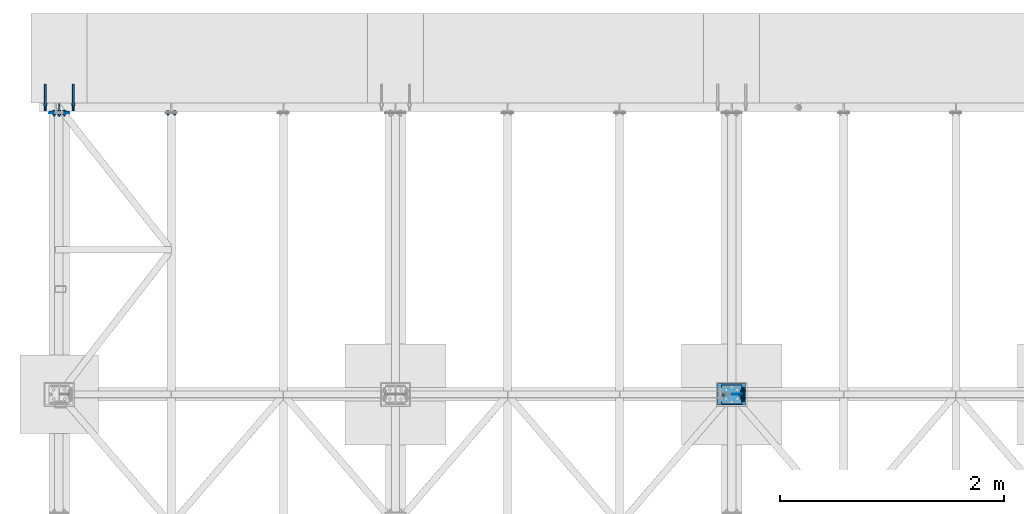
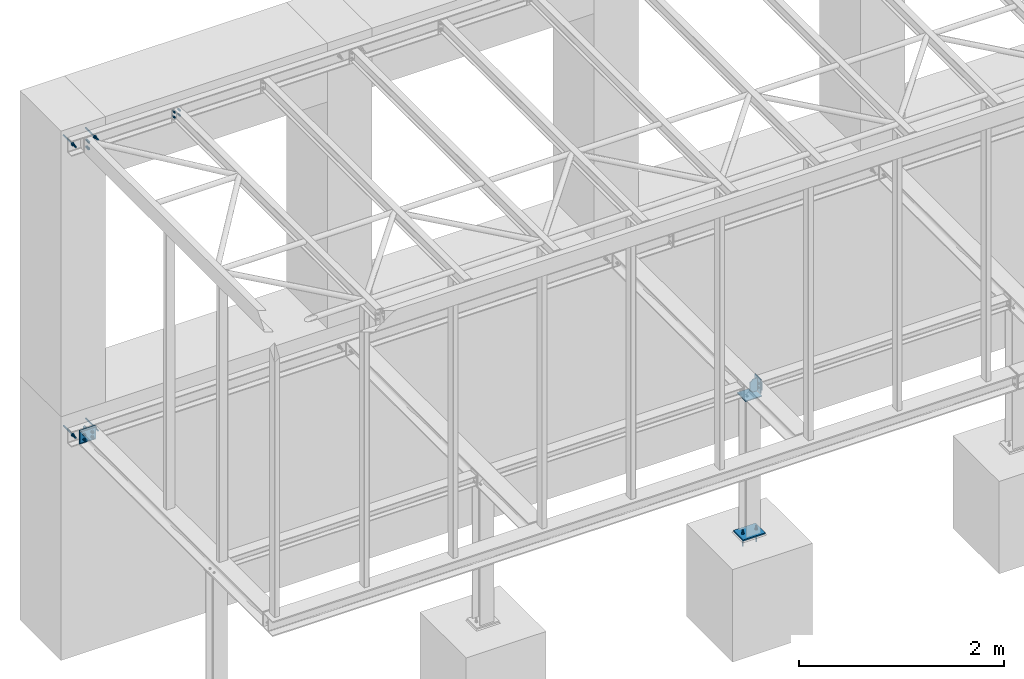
# One storey, part 14 of 23: 8 discrete accessories, 7 mechanical fasteners, 7 elements without a shape of their own.
"""IFC2X3 building model written with IfcOpenShell, lengths in millimetres."""

from ifc_helpers import new_model, si_unit, frame, frame_2d, origin_with_axes, origin_2d_with_axis, place, context, subcontext, project, spatial, polyline, circle_curve, parameter, trimmed, segment, composite_curve, circle, outline, extrude, source, transform, mapped, material, type_object, element, aggregate, save


model = new_model("IFC2X3")

# Units and contexts
model_context = context("Model", 3, precision=1e-05, world=origin_with_axes())
body_context = subcontext(model_context, "Body", "Model", "MODEL_VIEW")
ifc_project = project(units=[si_unit("LENGTHUNIT", "METRE", prefix="MILLI"), si_unit("AREAUNIT", "SQUARE_METRE"), si_unit("VOLUMEUNIT", "CUBIC_METRE"), si_unit("MASSUNIT", "GRAM", prefix="KILO"), si_unit("TIMEUNIT", "SECOND"), si_unit("PLANEANGLEUNIT", "RADIAN"), si_unit("SOLIDANGLEUNIT", "STERADIAN"), si_unit("THERMODYNAMICTEMPERATUREUNIT", "DEGREE_CELSIUS"), si_unit("LUMINOUSINTENSITYUNIT", "LUMEN")], contexts=[model_context])

# Site, building, storey
site_placement = place(None, origin_with_axes())
site = spatial("IfcSite", under=ifc_project, at=site_placement, Name="Undefined", CompositionType="ELEMENT")
building_placement = place(site_placement, origin_with_axes())
building = spatial("IfcBuilding", under=site, at=building_placement, Name="Undefined", CompositionType="ELEMENT")
storey_placement = place(building_placement, origin_with_axes())
storey = spatial("IfcBuildingStorey", under=building, at=storey_placement, Name="Undefined", CompositionType="ELEMENT", Elevation=0.0)

# Assembly, mechanical fastener
assembly_1_placement = place(storey_placement, origin_with_axes())
assembly_1 = element("IfcElementAssembly", 1, at=assembly_1_placement, inside=storey, Name="CONCRETE_SLAB", AssemblyPlace="NOTDEFINED", PredefinedType="REINFORCEMENT_UNIT")
ifc_material_1 = material(Name="Undefined")
mechanical_fastener_type = type_object("IfcMechanicalFastenerType", Name="Bolt assembly")
shared_shape_1 = source(origin_with_axes(), body_context, "Body", "SweptSolid", [
    extrude(circle(Radius=9.0, at=origin_2d_with_axis()), frame((0.0, -10.1, 0.0), z_axis=(0.0, 1.0, 0.0), x_axis=(1.0, 0.0, 0.0)), (0.0, 0.0, 1.0), 10.1),
    extrude(circle(Radius=9.0, at=origin_2d_with_axis()), frame((0.0, -19.9, 0.0), z_axis=(0.0, 1.0, 0.0), x_axis=(1.0, 0.0, 0.0)), (0.0, 0.0, 1.0), 10.0),
    extrude(outline(polyline([(13.85640646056, 0.0), (6.92820323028, 12.0000000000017), (-6.92820323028, 12.0000000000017), (-13.85640646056, 0.0), (-6.92820323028, -12.0000000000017), (6.92820323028, -12.0000000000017), (13.85640646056, 0.0)])), frame((0.0, -33.0, 0.0), z_axis=(0.0, 1.0, 0.0), x_axis=(1.0, 0.0, 0.0)), (0.0, 0.0, 1.0), 10.0),
    extrude(circle(Radius=8.0, at=origin_2d_with_axis()), frame((0.0, -23.0, 0.0), z_axis=(0.0, 1.0, 0.0), x_axis=(1.0, 0.0, 0.0)), (0.0, 0.0, 1.0), 50.0),
    extrude(circle(Radius=15.0, at=origin_2d_with_axis()), frame((0.0, -23.0, 0.0), z_axis=(0.0, 1.0, 0.0), x_axis=(1.0, 0.0, 0.0)), (0.0, 0.0, 1.0), 3.0),
    extrude(circle(Radius=15.0, at=origin_2d_with_axis()), frame((0.0, 0.0, 0.0), z_axis=(0.0, 1.0, 0.0), x_axis=(1.0, 0.0, 0.0)), (0.0, 0.0, 1.0), 3.0),
    extrude(outline(polyline([(15.4441197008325, 0.0), (7.72205985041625, 13.3750000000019), (-7.72205985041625, 13.3750000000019), (-15.4441197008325, 0.0), (-7.72205985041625, -13.3750000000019), (7.72205985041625, -13.3750000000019), (15.4441197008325, 0.0)])), frame((0.0, 3.0, 0.0), z_axis=(0.0, 1.0, 0.0), x_axis=(1.0, 0.0, 0.0)), (0.0, 0.0, 1.0), 13.0),
])
mechanical_fastener_1_placement = place(assembly_1_placement, frame((50.0, 3765.0, 3210.0), z_axis=(0.0, 0.0, 1.0), x_axis=(-1.0, 0.0, 0.0)))
mechanical_fastener_1 = element("IfcMechanicalFastener", 2, at=mechanical_fastener_1_placement, type_object=mechanical_fastener_type, material=ifc_material_1, Name="Bolt assembly", NominalDiameter=16.0, NominalLength=50.0, context=body_context, shape_type="MappedRepresentation", body=[
    mapped(shared_shape_1, transform((0.0, 0.0, -40.0))),
    mapped(shared_shape_1, transform((0.0, 0.0, 40.0))),
])
aggregate(assembly_1, [mechanical_fastener_1])

# Assembly, discrete accessory
assembly_2_placement = place(storey_placement, origin_with_axes())
assembly_2 = element("IfcElementAssembly", 3, at=assembly_2_placement, inside=storey, Name="Steel Assembly", AssemblyPlace="NOTDEFINED", PredefinedType="RIGID_FRAME")
ifc_material_2 = material(Name="STEEL/S235JR")
discrete_accessory_type_1 = type_object("IfcDiscreteAccessoryType", Name="PLECH")
discrete_accessory_1_placement = place(assembly_2_placement, frame((6140.0, 1346.0, -345.0), z_axis=(0.0, 0.0, 1.0), x_axis=(-1.0, 0.0, 0.0)))
discrete_accessory_1 = element("IfcDiscreteAccessory", 4, at=discrete_accessory_1_placement, type_object=discrete_accessory_type_1, material=ifc_material_2, Name="PLECH", ObjectType="PL10*172", context=body_context, shape_type="SweptSolid", body=[
    extrude(outline(polyline([(0.0, 0.0), (180.0, 0.0), (180.0, 172.0), (0.0, 172.0), (0.0, 0.0)])), frame((0.0, 0.0, -5.0), z_axis=(0.0, 0.0, 1.0), x_axis=(1.0, 0.0, 0.0)), (0.0, 0.0, 1.0), 10.0),
])

assembly_3_placement = place(storey_placement, origin_with_axes())
assembly_3 = element("IfcElementAssembly", 5, at=assembly_3_placement, inside=storey, Name="Steel Assembly", AssemblyPlace="NOTDEFINED", PredefinedType="RIGID_FRAME")
discrete_accessory_2_placement = place(assembly_3_placement, frame((6155.0, 1200.0, -299.0), z_axis=(-1.0, 0.0, 0.0), x_axis=(0.0, 0.0, 1.0)))
discrete_accessory_2 = element("IfcDiscreteAccessory", 6, at=discrete_accessory_2_placement, type_object=discrete_accessory_type_1, material=ifc_material_2, Name="PLECH", ObjectType="PL10*98", context=body_context, shape_type="SweptSolid", body=[
    extrude(outline(polyline([(0.0, 0.0), (98.0, 4.54747350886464e-13), (98.0, 120.0), (0.0, 120.0), (0.0, 0.0)])), frame((0.0, 0.0, -5.0), z_axis=(0.0, 0.0, 1.0), x_axis=(1.0, 0.0, 0.0)), (0.0, 0.0, 1.0), 10.0),
])
aggregate(assembly_3, [discrete_accessory_2])

# Assembly, discrete accessories
assembly_4_placement = place(storey_placement, origin_with_axes())
assembly_4 = element("IfcElementAssembly", 7, at=assembly_4_placement, inside=storey, Name="Steel Assembly", AssemblyPlace="NOTDEFINED", PredefinedType="RIGID_FRAME")
discrete_accessory_3_placement = place(assembly_4_placement, frame((6140.0, 1260.0, -174.0), z_axis=(0.0, -1.0, 0.0), x_axis=(-1.0, 0.0, 0.0)))
discrete_accessory_3 = element("IfcDiscreteAccessory", 8, at=discrete_accessory_3_placement, type_object=discrete_accessory_type_1, material=ifc_material_2, Name="PLECH", ObjectType="PL8*86", context=body_context, shape_type="SweptSolid", body=[
    extrude(outline(composite_curve([segment(polyline([(0.0, 0.0), (60.5, 0.0)]), True, "CONTINUOUS"), segment(trimmed(circle_curve(frame_2d((85.5, 0.0), x_axis=(-1.0, 0.0)), 25.0), [parameter(0.0)], [parameter(4.71238898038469)], False, "PARAMETER"), True, "CONTINUOUS"), segment(polyline([(85.5, 25.0), (85.5, 127.0)]), True, "CONTINUOUS"), segment(trimmed(circle_curve(frame_2d((85.5, 152.0), x_axis=(0.0, -1.0)), 25.0), [parameter(0.0)], [parameter(4.71238898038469)], False, "PARAMETER"), True, "CONTINUOUS"), segment(polyline([(60.5, 152.0), (0.0, 152.0), (0.0, 0.0)]), True, "DISCONTINUOUS")], self_intersect=False)), frame((0.0, 0.0, -4.0), z_axis=(0.0, 0.0, 1.0), x_axis=(1.0, 0.0, 0.0)), (0.0, 0.0, 1.0), 8.0),
])
discrete_accessory_4_placement = place(assembly_4_placement, frame((6145.0, 1200.0, -332.0), z_axis=(-1.0, 0.0, 0.0), x_axis=(0.0, 0.0, 1.0)))
discrete_accessory_4 = element("IfcDiscreteAccessory", 9, at=discrete_accessory_4_placement, type_object=discrete_accessory_type_1, material=ifc_material_2, Name="PLECH", ObjectType="PL10*120", context=body_context, shape_type="SweptSolid", body=[
    extrude(outline(polyline([(0.0, 0.0), (164.0, 4.54747350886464e-13), (164.0, 120.0), (0.0, 120.0), (0.0, 0.0)])), frame((0.0, 0.0, -5.0), z_axis=(0.0, 0.0, 1.0), x_axis=(1.0, 0.0, 0.0)), (0.0, 0.0, 1.0), 10.0),
])

# Discrete accessory
discrete_accessory_5_placement = place(assembly_2_placement, frame((6175.0, 1356.0, -1982.5), z_axis=(0.0, 0.0, 1.0), x_axis=(-1.0, 0.0, 0.0)))
discrete_accessory_5 = element("IfcDiscreteAccessory", 10, at=discrete_accessory_5_placement, type_object=discrete_accessory_type_1, material=ifc_material_2, Name="PLECH", ObjectType="PL15*192", context=body_context, shape_type="SweptSolid", body=[
    extrude(outline(polyline([(0.0, 0.0), (250.0, 0.0), (250.0, 192.0), (0.0, 192.0), (0.0, 0.0)])), frame((0.0, 0.0, -7.5), z_axis=(0.0, 0.0, 1.0), x_axis=(1.0, 0.0, 0.0)), (0.0, 0.0, 1.0), 15.0),
])

# Assembly, discrete accessories
assembly_5_placement = place(storey_placement, origin_with_axes())
assembly_5 = element("IfcElementAssembly", 11, at=assembly_5_placement, inside=storey, Name="Steel Assembly", AssemblyPlace="NOTDEFINED", PredefinedType="RIGID_FRAME")
discrete_accessory_6_placement = place(assembly_5_placement, frame((-40.0, 3780.0, -168.0), z_axis=(0.0, 1.0, 0.0), x_axis=(1.0, 0.0, 0.0)))
discrete_accessory_6 = element("IfcDiscreteAccessory", 12, at=discrete_accessory_6_placement, type_object=discrete_accessory_type_1, material=ifc_material_2, Name="PLECH", ObjectType="PL10*164", context=body_context, shape_type="SweptSolid", body=[
    extrude(outline(polyline([(0.0, 0.0), (180.0, 0.0), (180.0, 164.0), (0.0, 164.0), (0.0, 0.0)])), frame((0.0, 0.0, -5.0), z_axis=(0.0, 0.0, 1.0), x_axis=(1.0, 0.0, 0.0)), (0.0, 0.0, 1.0), 10.0),
])
discrete_accessory_7_placement = place(assembly_5_placement, frame((50.0, 3785.0, -170.5), z_axis=(-1.0, 0.0, 0.0), x_axis=(0.0, 1.0, 0.0)))
discrete_accessory_7 = element("IfcDiscreteAccessory", 13, at=discrete_accessory_7_placement, type_object=discrete_accessory_type_1, material=ifc_material_2, Name="PLECH", ObjectType="PL8*70", context=body_context, shape_type="SweptSolid", body=[
    extrude(outline(composite_curve([segment(polyline([(0.0, 0.0), (49.5, 0.0)]), True, "CONTINUOUS"), segment(trimmed(circle_curve(frame_2d((69.5, 0.0), x_axis=(-1.0, 0.0)), 20.0), [parameter(0.0)], [parameter(4.71238898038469)], False, "PARAMETER"), True, "CONTINUOUS"), segment(polyline([(69.5, 20.0), (69.5, 139.0)]), True, "CONTINUOUS"), segment(trimmed(circle_curve(frame_2d((69.5, 159.0), x_axis=(0.0, -1.0)), 20.0), [parameter(0.0)], [parameter(4.71238898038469)], False, "PARAMETER"), True, "CONTINUOUS"), segment(polyline([(49.5, 159.0), (0.0, 159.0), (0.0, 0.0)]), True, "DISCONTINUOUS")], self_intersect=False)), frame((0.0, 0.0, -4.0), z_axis=(0.0, 0.0, 1.0), x_axis=(1.0, 0.0, 0.0)), (0.0, 0.0, 1.0), 8.0),
])

# Assembly, discrete accessory
assembly_6_placement = place(storey_placement, origin_with_axes())
assembly_6 = element("IfcElementAssembly", 14, at=assembly_6_placement, inside=storey, Name="Steel Assembly", AssemblyPlace="NOTDEFINED", PredefinedType="RIGID_FRAME")
discrete_accessory_8_placement = place(assembly_6_placement, frame((-40.0, 3771.0, -184.0), z_axis=(0.0, 1.0, 0.0), x_axis=(1.0, 0.0, 0.0)))
discrete_accessory_8 = element("IfcDiscreteAccessory", 15, at=discrete_accessory_8_placement, type_object=discrete_accessory_type_1, material=ifc_material_2, Name="PLECH", ObjectType="PL8*132", context=body_context, shape_type="SweptSolid", body=[
    extrude(outline(polyline([(0.0, 0.0), (180.0, 0.0), (180.0, 132.0), (0.0, 132.0), (0.0, 0.0)])), frame((0.0, 0.0, -4.0), z_axis=(0.0, 0.0, 1.0), x_axis=(1.0, 0.0, 0.0)), (0.0, 0.0, 1.0), 8.0),
])
aggregate(assembly_6, [discrete_accessory_8])

# Mechanical fastener
discrete_accessory_type_2 = type_object("IfcDiscreteAccessoryType", Name="Bolt assembly")
shared_shape_2 = source(origin_with_axes(), body_context, "Body", "SweptSolid", [
    extrude(circle(Radius=9.0, at=origin_2d_with_axis()), frame((0.0, -15.0, 0.0), z_axis=(0.0, 1.0, 0.0), x_axis=(1.0, 0.0, 0.0)), (0.0, 0.0, 1.0), 15.1),
    extrude(outline(polyline([(7.73649338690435, 0.0), (3.86824669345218, 6.69999980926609), (-3.86824669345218, 6.69999980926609), (-7.73649338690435, 0.0), (-3.86824669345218, -6.69999980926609), (3.86824669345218, -6.69999980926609), (7.73649338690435, 0.0)])), frame((0.0, -147.0, 0.0), z_axis=(0.0, 1.0, 0.0), x_axis=(1.0, 0.0, 0.0)), (0.0, 0.0, 1.0), 132.0),
    extrude(circle(Radius=8.0, at=origin_2d_with_axis()), frame((0.0, -15.0, 0.0), z_axis=(0.0, 1.0, 0.0), x_axis=(1.0, 0.0, 0.0)), (0.0, 0.0, 1.0), 58.0),
    extrude(circle(Radius=15.0, at=origin_2d_with_axis()), frame((0.0, 0.0, 0.0), z_axis=(0.0, 1.0, 0.0), x_axis=(1.0, 0.0, 0.0)), (0.0, 0.0, 1.0), 3.0),
    extrude(outline(polyline([(15.4441197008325, 0.0), (7.72205985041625, 13.3750000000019), (-7.72205985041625, 13.3750000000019), (-15.4441197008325, 0.0), (-7.72205985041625, -13.3750000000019), (7.72205985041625, -13.3750000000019), (15.4441197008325, 0.0)])), frame((0.0, 3.0, 0.0), z_axis=(0.0, 1.0, 0.0), x_axis=(1.0, 0.0, 0.0)), (0.0, 0.0, 1.0), 13.0),
])
mechanical_fastener_2_placement = place(assembly_2_placement, frame((5975.0, 1260.0, -1975.0), z_axis=(0.0, -1.0, 0.0), x_axis=(1.0, 0.0, 0.0)))
mechanical_fastener_2 = element("IfcMechanicalFastener", 16, at=mechanical_fastener_2_placement, type_object=discrete_accessory_type_2, material=ifc_material_1, Name="Bolt assembly", NominalDiameter=16.0, NominalLength=58.0, context=body_context, shape_type="MappedRepresentation", body=[
    mapped(shared_shape_2, transform((0.0, 0.0, 0.0))),
    mapped(shared_shape_2, transform((150.0, 0.0, 0.0))),
])

aggregate(assembly_2, [discrete_accessory_1, mechanical_fastener_2, discrete_accessory_5])

# Assembly, mechanical fastener
assembly_7_placement = place(storey_placement, origin_with_axes())
assembly_7 = element("IfcElementAssembly", 17, at=assembly_7_placement, inside=storey, Name="Steel Assembly", AssemblyPlace="NOTDEFINED", PredefinedType="RIGID_FRAME")
shared_shape_3 = source(origin_with_axes(), body_context, "Body", "SweptSolid", [
    extrude(circle(Radius=11.0, at=origin_2d_with_axis()), frame((0.0, -5.5, 0.0), z_axis=(0.0, 1.0, 0.0), x_axis=(1.0, 0.0, 0.0)), (0.0, 0.0, 1.0), 5.6),
    extrude(outline(polyline([(9.81495457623, 0.0), (4.907477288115, 8.5000000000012), (-4.907477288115, 8.5000000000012), (-9.81495457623, 0.0), (-4.907477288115, -8.5000000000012), (4.907477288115, -8.5000000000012), (9.81495457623, 0.0)])), frame((0.0, -173.5, 0.0), z_axis=(0.0, 1.0, 0.0), x_axis=(1.0, 0.0, 0.0)), (0.0, 0.0, 1.0), 168.0),
    extrude(circle(Radius=10.0, at=origin_2d_with_axis()), frame((0.0, -5.5, 0.0), z_axis=(0.0, 1.0, 0.0), x_axis=(1.0, 0.0, 0.0)), (0.0, 0.0, 1.0), 72.0),
    extrude(circle(Radius=18.5, at=origin_2d_with_axis()), frame((0.0, 0.0, 0.0), z_axis=(0.0, 1.0, 0.0), x_axis=(1.0, 0.0, 0.0)), (0.0, 0.0, 1.0), 3.0),
    extrude(outline(polyline([(17.3205080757, 0.0), (8.66025403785, 15.0000000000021), (-8.66025403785, 15.0000000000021), (-17.3205080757, 0.0), (-8.66025403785, -15.0000000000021), (8.66025403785, -15.0000000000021), (17.3205080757, 0.0)])), frame((0.0, 3.0, 0.0), z_axis=(0.0, 1.0, 0.0), x_axis=(1.0, 0.0, 0.0)), (0.0, 0.0, 1.0), 16.0),
])
mechanical_fastener_3_placement = place(assembly_7_placement, frame((-75.0, 3854.5, 3210.0), z_axis=(0.0, 0.0, -1.0), x_axis=(1.0, 0.0, 0.0)))
mechanical_fastener_3 = element("IfcMechanicalFastener", 18, at=mechanical_fastener_3_placement, type_object=discrete_accessory_type_2, material=ifc_material_1, Name="Bolt assembly", NominalDiameter=20.0, NominalLength=72.0, context=body_context, shape_type="MappedRepresentation", body=[
    mapped(shared_shape_3, transform((0.0, 0.0, 0.0))),
    mapped(shared_shape_3, transform((250.0, 0.0, 0.0))),
])

# Mechanical fastener
mechanical_fastener_4_placement = place(assembly_5_placement, frame((-75.0, 3854.5, -250.0), z_axis=(0.0, 0.0, -1.0), x_axis=(1.0, 0.0, 0.0)))
mechanical_fastener_4 = element("IfcMechanicalFastener", 19, at=mechanical_fastener_4_placement, type_object=discrete_accessory_type_2, material=ifc_material_1, Name="Bolt assembly", NominalDiameter=20.0, NominalLength=72.0, context=body_context, shape_type="MappedRepresentation", body=[
    mapped(shared_shape_3, transform((0.0, 0.0, 0.0))),
    mapped(shared_shape_3, transform((250.0, 0.0, 0.0))),
])

shared_shape_4 = source(origin_with_axes(), body_context, "Body", "SweptSolid", [
    extrude(circle(Radius=6.5, at=origin_2d_with_axis()), frame((0.0, -4.1, 0.0), z_axis=(0.0, 1.0, 0.0), x_axis=(1.0, 0.0, 0.0)), (0.0, 0.0, 1.0), 10.1),
    extrude(circle(Radius=6.5, at=origin_2d_with_axis()), frame((0.0, -13.9, 0.0), z_axis=(0.0, 1.0, 0.0), x_axis=(1.0, 0.0, 0.0)), (0.0, 0.0, 1.0), 10.0),
    extrude(outline(polyline([(10.39230484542, 0.0), (5.19615242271, 9.00000000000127), (-5.19615242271, 9.00000000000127), (-10.39230484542, 0.0), (-5.19615242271, -9.00000000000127), (5.19615242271, -9.00000000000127), (10.39230484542, 0.0)])), frame((0.0, -24.0, 0.0), z_axis=(0.0, 1.0, 0.0), x_axis=(1.0, 0.0, 0.0)), (0.0, 0.0, 1.0), 7.5),
    extrude(circle(Radius=6.0, at=origin_2d_with_axis()), frame((0.0, -16.5, 0.0), z_axis=(0.0, 1.0, 0.0), x_axis=(1.0, 0.0, 0.0)), (0.0, 0.0, 1.0), 40.0),
    extrude(circle(Radius=12.0, at=origin_2d_with_axis()), frame((0.0, -16.5, 0.0), z_axis=(0.0, 1.0, 0.0), x_axis=(1.0, 0.0, 0.0)), (0.0, 0.0, 1.0), 2.5),
    extrude(circle(Radius=12.0, at=origin_2d_with_axis()), frame((0.0, 6.0, 0.0), z_axis=(0.0, 1.0, 0.0), x_axis=(1.0, 0.0, 0.0)), (0.0, 0.0, 1.0), 2.5),
    extrude(outline(polyline([(10.96965511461, 0.0), (5.484827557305, 9.50000000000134), (-5.484827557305, 9.50000000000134), (-10.96965511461, 0.0), (-5.484827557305, -9.50000000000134), (5.484827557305, -9.50000000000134), (10.96965511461, 0.0)])), frame((0.0, 8.5, 0.0), z_axis=(0.0, 1.0, 0.0), x_axis=(1.0, 0.0, 0.0)), (0.0, 0.0, 1.0), 10.0),
])
mechanical_fastener_5_placement = place(assembly_4_placement, frame((6154.0, 1260.0, -225.0), z_axis=(0.0, -1.0, 0.0), x_axis=(0.0, 0.0, -1.0)))
mechanical_fastener_5 = element("IfcMechanicalFastener", 20, at=mechanical_fastener_5_placement, type_object=discrete_accessory_type_2, material=ifc_material_1, Name="Bolt assembly", NominalDiameter=12.0, NominalLength=40.0, context=body_context, shape_type="MappedRepresentation", body=[
    mapped(shared_shape_4, transform((0.0, 0.0, 30.0))),
    mapped(shared_shape_4, transform((50.0, 0.0, 30.0))),
    mapped(shared_shape_4, transform((0.0, 0.0, -30.0))),
    mapped(shared_shape_4, transform((50.0, 0.0, -30.0))),
])

aggregate(assembly_4, [mechanical_fastener_5, discrete_accessory_3, discrete_accessory_4])

shared_shape_5 = source(origin_with_axes(), body_context, "Body", "SweptSolid", [
    extrude(circle(Radius=9.0, at=origin_2d_with_axis()), frame((0.0, -0.1, 0.0), z_axis=(0.0, 1.0, 0.0), x_axis=(1.0, 0.0, 0.0)), (0.0, 0.0, 1.0), 8.1),
    extrude(circle(Radius=9.0, at=origin_2d_with_axis()), frame((0.0, -9.9, 0.0), z_axis=(0.0, 1.0, 0.0), x_axis=(1.0, 0.0, 0.0)), (0.0, 0.0, 1.0), 10.0),
    extrude(outline(polyline([(13.85640646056, 0.0), (6.92820323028, 12.0000000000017), (-6.92820323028, 12.0000000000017), (-13.85640646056, 0.0), (-6.92820323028, -12.0000000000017), (6.92820323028, -12.0000000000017), (13.85640646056, 0.0)])), frame((0.0, -23.0, 0.0), z_axis=(0.0, 1.0, 0.0), x_axis=(1.0, 0.0, 0.0)), (0.0, 0.0, 1.0), 10.0),
    extrude(circle(Radius=8.0, at=origin_2d_with_axis()), frame((0.0, -13.0, 0.0), z_axis=(0.0, 1.0, 0.0), x_axis=(1.0, 0.0, 0.0)), (0.0, 0.0, 1.0), 50.0),
    extrude(circle(Radius=15.0, at=origin_2d_with_axis()), frame((0.0, -13.0, 0.0), z_axis=(0.0, 1.0, 0.0), x_axis=(1.0, 0.0, 0.0)), (0.0, 0.0, 1.0), 3.0),
    extrude(circle(Radius=15.0, at=origin_2d_with_axis()), frame((0.0, 8.0, 0.0), z_axis=(0.0, 1.0, 0.0), x_axis=(1.0, 0.0, 0.0)), (0.0, 0.0, 1.0), 3.0),
    extrude(outline(polyline([(15.4441197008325, 0.0), (7.72205985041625, 13.3750000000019), (-7.72205985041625, 13.3750000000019), (-15.4441197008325, 0.0), (-7.72205985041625, -13.3750000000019), (7.72205985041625, -13.3750000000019), (15.4441197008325, 0.0)])), frame((0.0, 11.0, 0.0), z_axis=(0.0, 1.0, 0.0), x_axis=(1.0, 0.0, 0.0)), (0.0, 0.0, 1.0), 13.0),
])
mechanical_fastener_6_placement = place(assembly_5_placement, frame((5.0, 3775.0, -250.0), z_axis=(0.0, 0.0, -1.0), x_axis=(1.0, 0.0, 0.0)))
mechanical_fastener_6 = element("IfcMechanicalFastener", 21, at=mechanical_fastener_6_placement, type_object=discrete_accessory_type_2, material=ifc_material_1, Name="Bolt assembly", NominalDiameter=16.0, NominalLength=50.0, context=body_context, shape_type="MappedRepresentation", body=[
    mapped(shared_shape_5, transform((0.0, 0.0, -30.0))),
    mapped(shared_shape_5, transform((90.0, 0.0, -30.0))),
    mapped(shared_shape_5, transform((0.0, 0.0, 30.0))),
    mapped(shared_shape_5, transform((90.0, 0.0, 30.0))),
])

aggregate(assembly_5, [mechanical_fastener_4, mechanical_fastener_6, discrete_accessory_6, discrete_accessory_7])

shared_shape_6 = source(origin_with_axes(), body_context, "Body", "SweptSolid", [
    extrude(circle(Radius=6.5, at=origin_2d_with_axis()), frame((0.0, -0.1, 0.0), z_axis=(0.0, 1.0, 0.0), x_axis=(1.0, 0.0, 0.0)), (0.0, 0.0, 1.0), 8.1),
    extrude(circle(Radius=6.5, at=origin_2d_with_axis()), frame((0.0, -9.9, 0.0), z_axis=(0.0, 1.0, 0.0), x_axis=(1.0, 0.0, 0.0)), (0.0, 0.0, 1.0), 10.0),
    extrude(outline(polyline([(10.96965511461, 0.0), (5.484827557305, 9.50000000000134), (-5.484827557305, 9.50000000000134), (-10.96965511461, 0.0), (-5.484827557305, -9.50000000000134), (5.484827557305, -9.50000000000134), (10.96965511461, 0.0)])), frame((0.0, -20.0, 0.0), z_axis=(0.0, 1.0, 0.0), x_axis=(1.0, 0.0, 0.0)), (0.0, 0.0, 1.0), 7.5),
    extrude(circle(Radius=6.0, at=origin_2d_with_axis()), frame((0.0, -12.5, 0.0), z_axis=(0.0, 1.0, 0.0), x_axis=(1.0, 0.0, 0.0)), (0.0, 0.0, 1.0), 40.0),
    extrude(circle(Radius=12.0, at=origin_2d_with_axis()), frame((0.0, -12.5, 0.0), z_axis=(0.0, 1.0, 0.0), x_axis=(1.0, 0.0, 0.0)), (0.0, 0.0, 1.0), 2.5),
    extrude(circle(Radius=12.0, at=origin_2d_with_axis()), frame((0.0, 8.0, 0.0), z_axis=(0.0, 1.0, 0.0), x_axis=(1.0, 0.0, 0.0)), (0.0, 0.0, 1.0), 2.5),
    extrude(outline(polyline([(10.96965511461, 0.0), (5.484827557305, 9.50000000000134), (-5.484827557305, 9.50000000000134), (-10.96965511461, 0.0), (-5.484827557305, -9.50000000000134), (5.484827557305, -9.50000000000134), (10.96965511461, 0.0)])), frame((0.0, 10.5, 0.0), z_axis=(0.0, 1.0, 0.0), x_axis=(1.0, 0.0, 0.0)), (0.0, 0.0, 1.0), 10.0),
])
mechanical_fastener_7_placement = place(assembly_7_placement, frame((1020.0, 3775.0, 3230.0), z_axis=(0.0, 0.0, -1.0), x_axis=(1.0, 0.0, 0.0)))
mechanical_fastener_7 = element("IfcMechanicalFastener", 22, at=mechanical_fastener_7_placement, type_object=discrete_accessory_type_2, material=ifc_material_1, Name="Bolt assembly", NominalDiameter=12.0, NominalLength=40.0, context=body_context, shape_type="MappedRepresentation", body=[
    mapped(shared_shape_6, transform((0.0, 0.0, -30.0))),
    mapped(shared_shape_6, transform((60.0, 0.0, -30.0))),
    mapped(shared_shape_6, transform((0.0, 0.0, 30.0))),
    mapped(shared_shape_6, transform((60.0, 0.0, 30.0))),
])

aggregate(assembly_7, [mechanical_fastener_3, mechanical_fastener_7])

save(model, "model.ifc")
